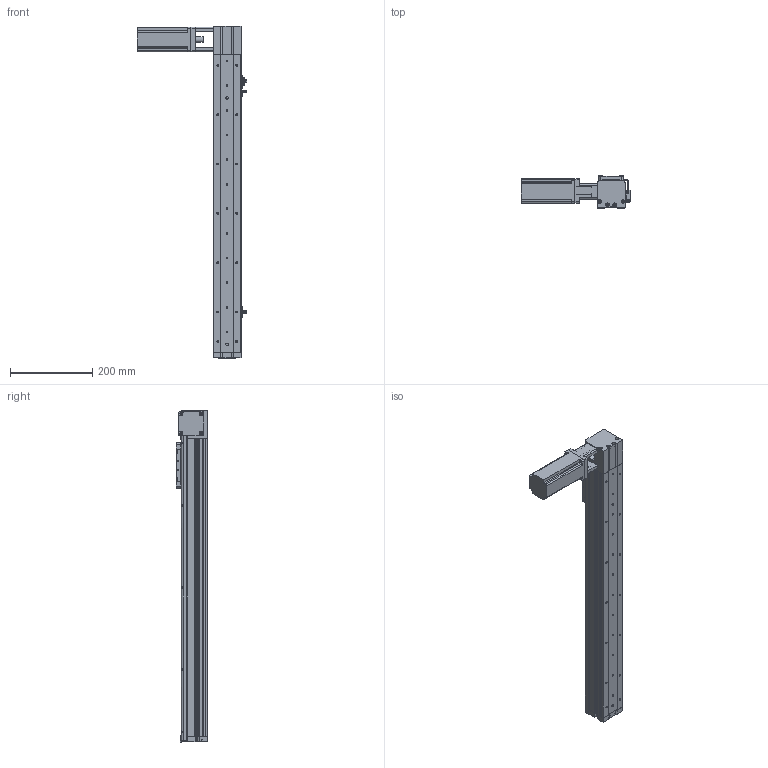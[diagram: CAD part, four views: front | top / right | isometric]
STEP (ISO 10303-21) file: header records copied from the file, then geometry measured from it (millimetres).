
FILE_DESCRIPTION (( 'STEP AP214' ), '1' );
FILE_NAME ('KSD68BS-S550-MLT-CR.STEP', '2019-11-08T05:17:17', ( '微软用户' ), ( '微软中国' ), 'SwSTEP 2.0', 'SolidWorks 2014', '' );
FILE_SCHEMA (( 'AUTOMOTIVE_DESIGN' ));
Length unit declared in the file: millimetre
Products named in the file (13): KSD68BS-S550-MLT-CR; 100遵鎮湛假蚾啣1; KSD68BS 550行程盖板全封闭; 68遵裔啣揤啣1; 68宽单导轨全封闭丝杆传动安装板1防护罩; KSD68BS 550行程侧板全封闭; 68宽单导轨全封闭同步带端板; 68单导轨全封闭同步带电机座右; 68单导轨全封闭同步带安装板; 感应片68宽全封闭; U倰嫖萇EEㄜSX672; 台达ECMA－C20604AS伺服电机（400W); KSD68BS 550行程底板全封闭
Assembly tree (16 placements, depth 2):
  KSD68BS-S550-MLT-CR
    KSD68BS 550行程底板全封闭
    台达ECMA－C20604AS伺服电机（400W)
    U倰嫖萇EEㄜSX672  x3
    感应片68宽全封闭
    68单导轨全封闭同步带安装板
    68单导轨全封闭同步带电机座右
    68宽单导轨全封闭同步带端板
    KSD68BS 550行程侧板全封闭  x2
    68宽单导轨全封闭丝杆传动安装板1防护罩
    68遵裔啣揤啣1  x2
    KSD68BS 550行程盖板全封闭
    100遵鎮湛假蚾啣1
Bounding box: 266.4 x 77 x 808.1 mm (x, y, z)
Volume: 1879334.2 mm3; surface area: 648036 mm2
Topology: 17 solids, 17 shells, 1382 faces, 3910 edges, 2503 vertices
Faces by surface type: cylinder 634, plane 600, cone 148
Entity records: 43145 total; most frequent: CARTESIAN_POINT 7269, DIRECTION 6440, ORIENTED_EDGE 6164, EDGE_CURVE 3082, AXIS2_PLACEMENT_3D 2308, VERTEX_POINT 2021, VECTOR 1824, LINE 1824
